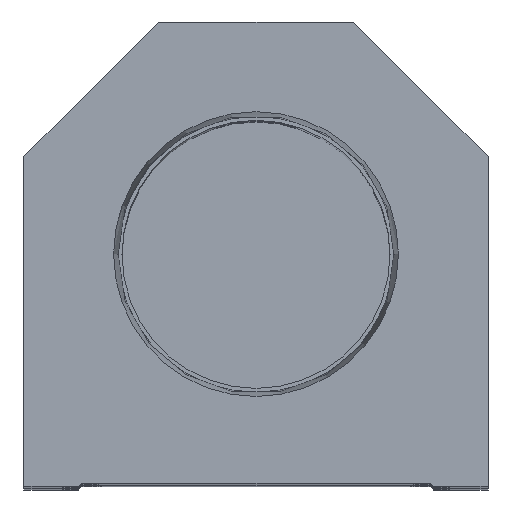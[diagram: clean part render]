
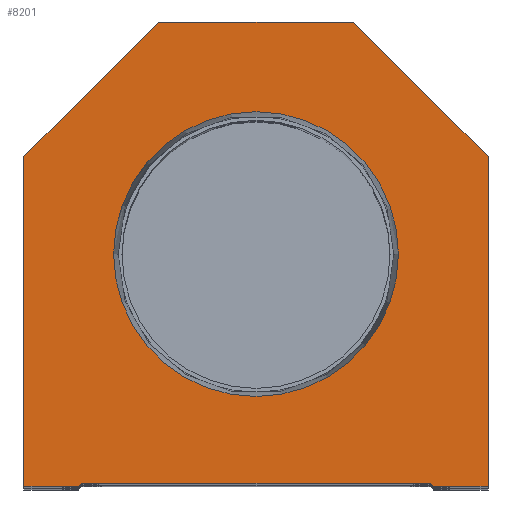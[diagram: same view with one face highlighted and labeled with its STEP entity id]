
A CAD part, top view. The second image highlights one B-rep face of the part: STEP entity #8201.
In plain terms, the highlighted planar face has unit normal (0, 0, 1).
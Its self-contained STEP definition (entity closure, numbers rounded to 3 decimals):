
#41 = ORIENTED_EDGE ( 'NONE', *, *, #17808, .F. ) ;
#138 = EDGE_CURVE ( 'NONE', #2302, #9910, #11393, .T. ) ;
#432 = VECTOR ( 'NONE', #600, 1000. ) ;
#535 = LINE ( 'NONE', #11063, #1293 ) ;
#600 = DIRECTION ( 'NONE',  ( 0.707, -0.707, 0. ) ) ;
#820 = DIRECTION ( 'NONE',  ( 1., 0., 0. ) ) ;
#872 = CARTESIAN_POINT ( 'NONE',  ( -38.1, 54.1, 0. ) ) ;
#1099 = EDGE_CURVE ( 'NONE', #19366, #4908, #1803, .T. ) ;
#1129 = CARTESIAN_POINT ( 'NONE',  ( -38.1, 0., 0. ) ) ;
#1293 = VECTOR ( 'NONE', #9568, 1000. ) ;
#1803 = LINE ( 'NONE', #16917, #5657 ) ;
#1847 = VERTEX_POINT ( 'NONE', #10555 ) ;
#1924 = EDGE_CURVE ( 'NONE', #9910, #7825, #3884, .T. ) ;
#2095 = EDGE_CURVE ( 'NONE', #10907, #1847, #9542, .T. ) ;
#2205 = VECTOR ( 'NONE', #13037, 1000. ) ;
#2222 = CARTESIAN_POINT ( 'NONE',  ( -38.1, 0., 0. ) ) ;
#2272 = VERTEX_POINT ( 'NONE', #10717 ) ;
#2302 = VERTEX_POINT ( 'NONE', #872 ) ;
#2512 = LINE ( 'NONE', #14409, #12214 ) ;
#3216 = CARTESIAN_POINT ( 'NONE',  ( -29.1, 0., 0. ) ) ;
#3884 = LINE ( 'NONE', #14291, #7324 ) ;
#4193 = EDGE_CURVE ( 'NONE', #2272, #19366, #7732, .T. ) ;
#4303 = CARTESIAN_POINT ( 'NONE',  ( 38.1, 0., 0. ) ) ;
#4359 = DIRECTION ( 'NONE',  ( 0., 0., 1. ) ) ;
#4400 = DIRECTION ( 'NONE',  ( 0., 0., 1. ) ) ;
#4500 = ORIENTED_EDGE ( 'NONE', *, *, #1924, .T. ) ;
#4674 = VERTEX_POINT ( 'NONE', #4303 ) ;
#4751 = ORIENTED_EDGE ( 'NONE', *, *, #1099, .T. ) ;
#4765 = AXIS2_PLACEMENT_3D ( 'NONE', #8906, #4400, #7149 ) ;
#4908 = VERTEX_POINT ( 'NONE', #13795 ) ;
#4994 = DIRECTION ( 'NONE',  ( 1., 0., 0. ) ) ;
#5657 = VECTOR ( 'NONE', #7781, 1000. ) ;
#5730 = ORIENTED_EDGE ( 'NONE', *, *, #7040, .T. ) ;
#6374 = CARTESIAN_POINT ( 'NONE',  ( -28.6, 0.5, 0. ) ) ;
#6706 = VERTEX_POINT ( 'NONE', #13384 ) ;
#6924 = FACE_OUTER_BOUND ( 'NONE', #8822, .T. ) ;
#7040 = EDGE_CURVE ( 'NONE', #1847, #4674, #12183, .T. ) ;
#7149 = DIRECTION ( 'NONE',  ( 1., 0., 0. ) ) ;
#7324 = VECTOR ( 'NONE', #820, 1000. ) ;
#7519 = CARTESIAN_POINT ( 'NONE',  ( -23.374, 38.1, 0. ) ) ;
#7634 = CARTESIAN_POINT ( 'NONE',  ( 28.6, 0., 0. ) ) ;
#7732 = LINE ( 'NONE', #9522, #11448 ) ;
#7781 = DIRECTION ( 'NONE',  ( -1., 0., 0. ) ) ;
#7825 = VERTEX_POINT ( 'NONE', #3216 ) ;
#7964 = ORIENTED_EDGE ( 'NONE', *, *, #2095, .T. ) ;
#8069 = VECTOR ( 'NONE', #4994, 1000. ) ;
#8201 = ADVANCED_FACE ( 'NONE', ( #9970, #6924 ), #15972, .T. ) ;
#8268 = ORIENTED_EDGE ( 'NONE', *, *, #4193, .T. ) ;
#8822 = EDGE_LOOP ( 'NONE', ( #4500, #15348, #17799, #7964, #5730, #13888, #8268, #4751, #10930, #9767 ) ) ;
#8906 = CARTESIAN_POINT ( 'NONE',  ( 0., 38.1, 0. ) ) ;
#9522 = CARTESIAN_POINT ( 'NONE',  ( 38.1, 54.1, 0. ) ) ;
#9542 = LINE ( 'NONE', #14066, #432 ) ;
#9568 = DIRECTION ( 'NONE',  ( 0.707, 0.707, 0. ) ) ;
#9767 = ORIENTED_EDGE ( 'NONE', *, *, #138, .T. ) ;
#9910 = VERTEX_POINT ( 'NONE', #2222 ) ;
#9950 = EDGE_CURVE ( 'NONE', #4908, #2302, #2512, .T. ) ;
#9970 = FACE_BOUND ( 'NONE', #18603, .T. ) ;
#10421 = AXIS2_PLACEMENT_3D ( 'NONE', #13114, #4359, #19286 ) ;
#10555 = CARTESIAN_POINT ( 'NONE',  ( 29.1, 0., 0. ) ) ;
#10717 = CARTESIAN_POINT ( 'NONE',  ( 38.1, 54.1, 0. ) ) ;
#10753 = VECTOR ( 'NONE', #15445, 1000. ) ;
#10907 = VERTEX_POINT ( 'NONE', #17906 ) ;
#10930 = ORIENTED_EDGE ( 'NONE', *, *, #9950, .T. ) ;
#11020 = LINE ( 'NONE', #18562, #18750 ) ;
#11063 = CARTESIAN_POINT ( 'NONE',  ( -14.55, 14.55, 0. ) ) ;
#11393 = LINE ( 'NONE', #1129, #2205 ) ;
#11448 = VECTOR ( 'NONE', #16780, 1000. ) ;
#11543 = EDGE_CURVE ( 'NONE', #7825, #6706, #535, .T. ) ;
#11928 = EDGE_CURVE ( 'NONE', #6706, #10907, #16785, .T. ) ;
#12183 = LINE ( 'NONE', #7634, #8069 ) ;
#12191 = DIRECTION ( 'NONE',  ( 0., 1., 0. ) ) ;
#12214 = VECTOR ( 'NONE', #13036, 1000. ) ;
#12748 = CARTESIAN_POINT ( 'NONE',  ( 0., 0., 0. ) ) ;
#13036 = DIRECTION ( 'NONE',  ( -0.707, -0.707, 0. ) ) ;
#13037 = DIRECTION ( 'NONE',  ( 0., -1., 0. ) ) ;
#13114 = CARTESIAN_POINT ( 'NONE',  ( 0., 38.1, 0. ) ) ;
#13245 = CIRCLE ( 'NONE', #4765, 23.374 ) ;
#13384 = CARTESIAN_POINT ( 'NONE',  ( -28.6, 0.5, 0. ) ) ;
#13795 = CARTESIAN_POINT ( 'NONE',  ( -16., 76.2, 0. ) ) ;
#13877 = CARTESIAN_POINT ( 'NONE',  ( 16., 76.2, 0. ) ) ;
#13888 = ORIENTED_EDGE ( 'NONE', *, *, #14003, .T. ) ;
#14003 = EDGE_CURVE ( 'NONE', #4674, #2272, #11020, .T. ) ;
#14066 = CARTESIAN_POINT ( 'NONE',  ( 14.55, 14.55, 0. ) ) ;
#14291 = CARTESIAN_POINT ( 'NONE',  ( -28.6, 0., 0. ) ) ;
#14409 = CARTESIAN_POINT ( 'NONE',  ( -38.1, 54.1, 0. ) ) ;
#14593 = VERTEX_POINT ( 'NONE', #15685 ) ;
#14661 = AXIS2_PLACEMENT_3D ( 'NONE', #12748, #15785, #17240 ) ;
#15348 = ORIENTED_EDGE ( 'NONE', *, *, #11543, .T. ) ;
#15445 = DIRECTION ( 'NONE',  ( 1., 0., 0. ) ) ;
#15685 = CARTESIAN_POINT ( 'NONE',  ( 23.374, 38.1, 0. ) ) ;
#15785 = DIRECTION ( 'NONE',  ( 0., 0., 1. ) ) ;
#15972 = PLANE ( 'NONE',  #14661 ) ;
#16780 = DIRECTION ( 'NONE',  ( -0.707, 0.707, 0. ) ) ;
#16785 = LINE ( 'NONE', #6374, #10753 ) ;
#16917 = CARTESIAN_POINT ( 'NONE',  ( 16., 76.2, 0. ) ) ;
#17240 = DIRECTION ( 'NONE',  ( 1., 0., 0. ) ) ;
#17799 = ORIENTED_EDGE ( 'NONE', *, *, #11928, .T. ) ;
#17808 = EDGE_CURVE ( 'NONE', #17872, #14593, #13245, .T. ) ;
#17872 = VERTEX_POINT ( 'NONE', #7519 ) ;
#17906 = CARTESIAN_POINT ( 'NONE',  ( 28.6, 0.5, 0. ) ) ;
#18562 = CARTESIAN_POINT ( 'NONE',  ( 38.1, 0., 0. ) ) ;
#18603 = EDGE_LOOP ( 'NONE', ( #19147, #41 ) ) ;
#18750 = VECTOR ( 'NONE', #12191, 1000. ) ;
#18891 = CIRCLE ( 'NONE', #10421, 23.374 ) ;
#19014 = EDGE_CURVE ( 'NONE', #14593, #17872, #18891, .T. ) ;
#19147 = ORIENTED_EDGE ( 'NONE', *, *, #19014, .F. ) ;
#19286 = DIRECTION ( 'NONE',  ( 1., 0., 0. ) ) ;
#19366 = VERTEX_POINT ( 'NONE', #13877 ) ;
